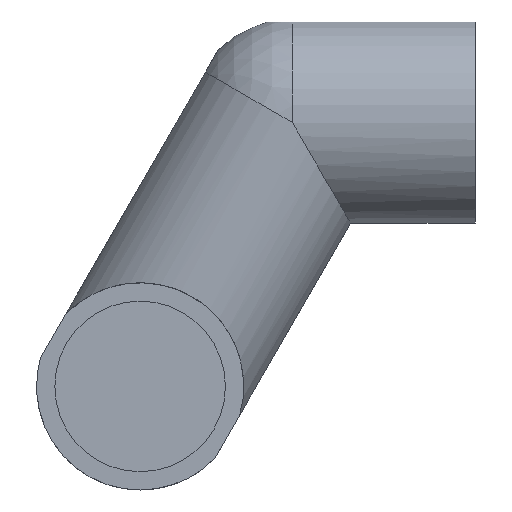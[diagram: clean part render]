
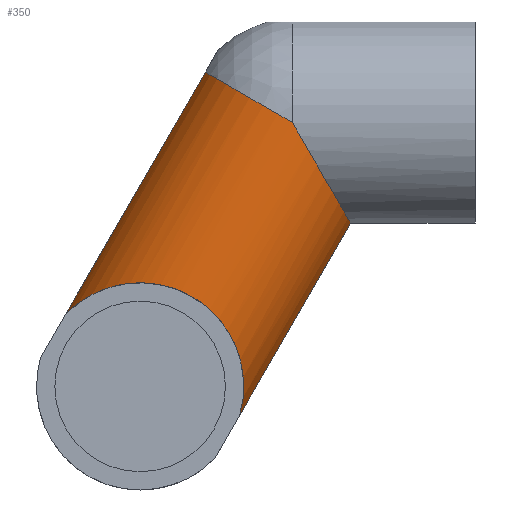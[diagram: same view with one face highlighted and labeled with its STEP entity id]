
A CAD part, left-side view. The second image highlights one B-rep face of the part: STEP entity #350.
In plain terms, the highlighted cylindrical face has radius 17 mm (diameter 34 mm), a partial arc.
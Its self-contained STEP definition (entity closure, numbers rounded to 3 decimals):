
#9 = ORIENTED_EDGE ( 'NONE', *, *, #691, .F. ) ;
#13 = FACE_OUTER_BOUND ( 'NONE', #693, .T. ) ;
#16 = EDGE_CURVE ( 'NONE', #582, #20, #181, .T. ) ;
#20 = VERTEX_POINT ( 'NONE', #498 ) ;
#56 = CARTESIAN_POINT ( 'NONE',  ( -17., 0., 0. ) ) ;
#66 = AXIS2_PLACEMENT_3D ( 'NONE', #410, #400, #465 ) ;
#97 = EDGE_CURVE ( 'NONE', #582, #259, #339, .T. ) ;
#166 =( BOUNDED_CURVE ( )  B_SPLINE_CURVE ( 3, ( #656, #380, #595, #545 ),
 .UNSPECIFIED., .F., .T. ) 
 B_SPLINE_CURVE_WITH_KNOTS ( ( 4, 4 ),
 ( 4.956, 7.611 ),
 .UNSPECIFIED. ) 
 CURVE ( )  GEOMETRIC_REPRESENTATION_ITEM ( )  RATIONAL_B_SPLINE_CURVE ( ( 1., 0.494, 0.494, 1. ) ) 
 REPRESENTATION_ITEM ( '' )  );
#175 = CYLINDRICAL_SURFACE ( 'NONE', #352, 17. ) ;
#181 = LINE ( 'NONE', #327, #477 ) ;
#213 =( BOUNDED_CURVE ( )  B_SPLINE_CURVE ( 3, ( #299, #461, #679, #513 ),
 .UNSPECIFIED., .F., .T. ) 
 B_SPLINE_CURVE_WITH_KNOTS ( ( 4, 4 ),
 ( 3.385, 4.712 ),
 .UNSPECIFIED. ) 
 CURVE ( )  GEOMETRIC_REPRESENTATION_ITEM ( )  RATIONAL_B_SPLINE_CURVE ( ( 1., 0.858, 0.858, 1. ) ) 
 REPRESENTATION_ITEM ( '' )  );
#238 = ORIENTED_EDGE ( 'NONE', *, *, #97, .F. ) ;
#259 = VERTEX_POINT ( 'NONE', #56 ) ;
#299 = CARTESIAN_POINT ( 'NONE',  ( -4.093, -9.526, -16.5 ) ) ;
#302 = ORIENTED_EDGE ( 'NONE', *, *, #16, .T. ) ;
#303 = CARTESIAN_POINT ( 'NONE',  ( -4.093, 14.289, 8.25 ) ) ;
#327 = CARTESIAN_POINT ( 'NONE',  ( -4.093, 39.289, -35.051 ) ) ;
#339 = CIRCLE ( 'NONE', #66, 17. ) ;
#350 = ADVANCED_FACE ( 'NONE', ( #13 ), #175, .T. ) ;
#352 = AXIS2_PLACEMENT_3D ( 'NONE', #392, #663, #608 ) ;
#361 = LINE ( 'NONE', #412, #509 ) ;
#364 = VERTEX_POINT ( 'NONE', #613 ) ;
#380 = CARTESIAN_POINT ( 'NONE',  ( -25.712, 2.498, -26.601 ) ) ;
#381 = CARTESIAN_POINT ( 'NONE',  ( -4.093, 8.664, -48.006 ) ) ;
#388 = VERTEX_POINT ( 'NONE', #381 ) ;
#392 = CARTESIAN_POINT ( 'NONE',  ( 0., 25., -43.301 ) ) ;
#400 = DIRECTION ( 'NONE',  ( 0., -0.5, 0.866 ) ) ;
#410 = CARTESIAN_POINT ( 'NONE',  ( 0., 0., 0. ) ) ;
#412 = CARTESIAN_POINT ( 'NONE',  ( -4.093, 10.711, -51.551 ) ) ;
#448 = EDGE_CURVE ( 'NONE', #364, #259, #213, .T. ) ;
#461 = CARTESIAN_POINT ( 'NONE',  ( -11.988, -8.396, -14.542 ) ) ;
#465 = DIRECTION ( 'NONE',  ( 0., -0.866, -0.5 ) ) ;
#477 = VECTOR ( 'NONE', #503, 1000. ) ;
#498 = CARTESIAN_POINT ( 'NONE',  ( -4.093, 37.242, -31.506 ) ) ;
#503 = DIRECTION ( 'NONE',  ( 0., 0.5, -0.866 ) ) ;
#509 = VECTOR ( 'NONE', #584, 1000. ) ;
#513 = CARTESIAN_POINT ( 'NONE',  ( -17., 0., 0. ) ) ;
#545 = CARTESIAN_POINT ( 'NONE',  ( -4.093, 37.242, -31.506 ) ) ;
#578 = EDGE_CURVE ( 'NONE', #364, #388, #361, .T. ) ;
#582 = VERTEX_POINT ( 'NONE', #303 ) ;
#584 = DIRECTION ( 'NONE',  ( 0., 0.5, -0.866 ) ) ;
#595 = CARTESIAN_POINT ( 'NONE',  ( -25.712, 21.788, -15.464 ) ) ;
#608 = DIRECTION ( 'NONE',  ( 0., -0.866, -0.5 ) ) ;
#613 = CARTESIAN_POINT ( 'NONE',  ( -4.093, -9.526, -16.5 ) ) ;
#623 = ORIENTED_EDGE ( 'NONE', *, *, #578, .F. ) ;
#656 = CARTESIAN_POINT ( 'NONE',  ( -4.093, 8.664, -48.006 ) ) ;
#663 = DIRECTION ( 'NONE',  ( 0., -0.5, 0.866 ) ) ;
#679 = CARTESIAN_POINT ( 'NONE',  ( -17., -4.696, -8.135 ) ) ;
#691 = EDGE_CURVE ( 'NONE', #388, #20, #166, .T. ) ;
#693 = EDGE_LOOP ( 'NONE', ( #623, #696, #238, #302, #9 ) ) ;
#696 = ORIENTED_EDGE ( 'NONE', *, *, #448, .T. ) ;
